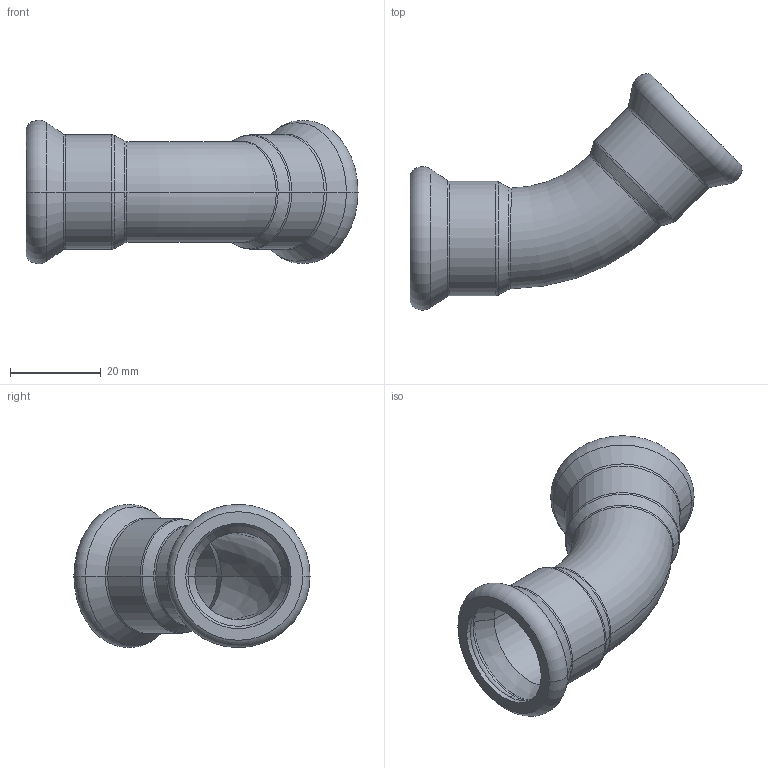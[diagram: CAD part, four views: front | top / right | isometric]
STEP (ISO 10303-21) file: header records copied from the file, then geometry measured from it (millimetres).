
FILE_DESCRIPTION (( 'STEP AP214' ), '1' );
FILE_NAME ('E220045.STEP', '2025-08-17T07:09:56', ( '' ), ( '' ), 'SwSTEP 2.0', 'SolidWorks 2020', '' );
FILE_SCHEMA (( 'AUTOMOTIVE_DESIGN' ));
Length unit declared in the file: millimetre
Products named in the file (1): E220045
Bounding box: 73.15 x 52.03 x 31.58 mm (x, y, z)
Volume: 9082.2 mm3; surface area: 12893.2 mm2
Topology: 3 solids, 3 shells, 64 faces, 136 edges, 76 vertices
Faces by surface type: torus 26, cone 16, cylinder 12, bspline 6, plane 4
Entity records: 3674 total; most frequent: CARTESIAN_POINT 1553, DIRECTION 322, ORIENTED_EDGE 272, AXIS2_PLACEMENT_3D 147, EDGE_CURVE 136, CIRCLE 88, VERTEX_POINT 76, EDGE_LOOP 68
